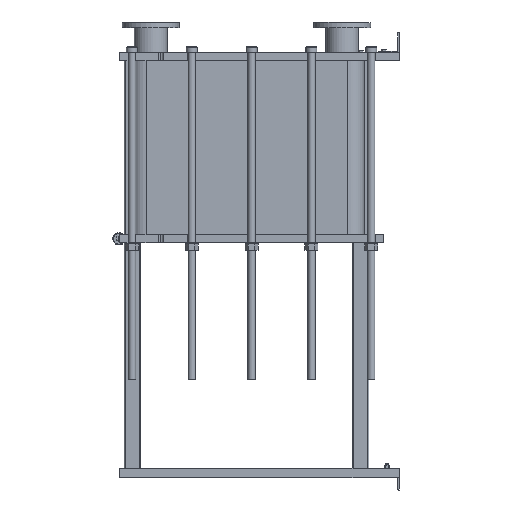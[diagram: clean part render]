
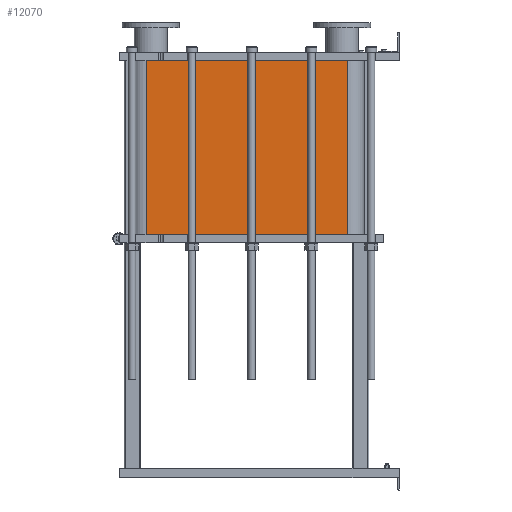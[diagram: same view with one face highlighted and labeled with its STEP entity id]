
A CAD part, left-side view. The second image highlights one B-rep face of the part: STEP entity #12070.
In plain terms, the highlighted planar face has unit normal (-1, 0, 0).
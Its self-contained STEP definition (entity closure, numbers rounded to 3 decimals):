
#1064=LINE('',#21140,#2164);
#1065=LINE('',#21144,#2165);
#1066=LINE('',#21146,#2166);
#1067=LINE('',#21147,#2167);
#2164=VECTOR('',#15790,10.);
#2165=VECTOR('',#15795,10.);
#2166=VECTOR('',#15796,10.);
#2167=VECTOR('',#15797,10.);
#3304=FACE_OUTER_BOUND('',#4091,.T.);
#4091=EDGE_LOOP('',(#9793,#9794,#9795,#9796));
#5677=VERTEX_POINT('',#21137);
#5678=VERTEX_POINT('',#21139);
#5679=VERTEX_POINT('',#21143);
#5680=VERTEX_POINT('',#21145);
#7118=EDGE_CURVE('',#5678,#5677,#1064,.T.);
#7120=EDGE_CURVE('',#5677,#5679,#1065,.T.);
#7121=EDGE_CURVE('',#5680,#5679,#1066,.T.);
#7122=EDGE_CURVE('',#5680,#5678,#1067,.T.);
#9793=ORIENTED_EDGE('',*,*,#7120,.T.);
#9794=ORIENTED_EDGE('',*,*,#7121,.F.);
#9795=ORIENTED_EDGE('',*,*,#7122,.T.);
#9796=ORIENTED_EDGE('',*,*,#7118,.T.);
#11441=PLANE('',#13191);
#12070=ADVANCED_FACE('',(#3304),#11441,.T.);
#13191=AXIS2_PLACEMENT_3D('',#21142,#15793,#15794);
#15790=DIRECTION('',(0.,0.,-1.));
#15793=DIRECTION('center_axis',(-1.,0.,0.));
#15794=DIRECTION('ref_axis',(0.,1.,0.));
#15795=DIRECTION('',(0.,-1.,0.));
#15796=DIRECTION('',(0.,0.,-1.));
#15797=DIRECTION('',(0.,1.,0.));
#21137=CARTESIAN_POINT('',(-248.152,1243.818,-855.6));
#21139=CARTESIAN_POINT('',(-248.152,1243.818,0.));
#21140=CARTESIAN_POINT('',(-248.152,1243.818,0.));
#21142=CARTESIAN_POINT('Origin',(-248.152,251.818,0.));
#21143=CARTESIAN_POINT('',(-248.152,251.818,-855.6));
#21144=CARTESIAN_POINT('',(-248.152,499.818,-855.6));
#21145=CARTESIAN_POINT('',(-248.152,251.818,0.));
#21146=CARTESIAN_POINT('',(-248.152,251.818,0.));
#21147=CARTESIAN_POINT('',(-248.152,251.818,0.));
